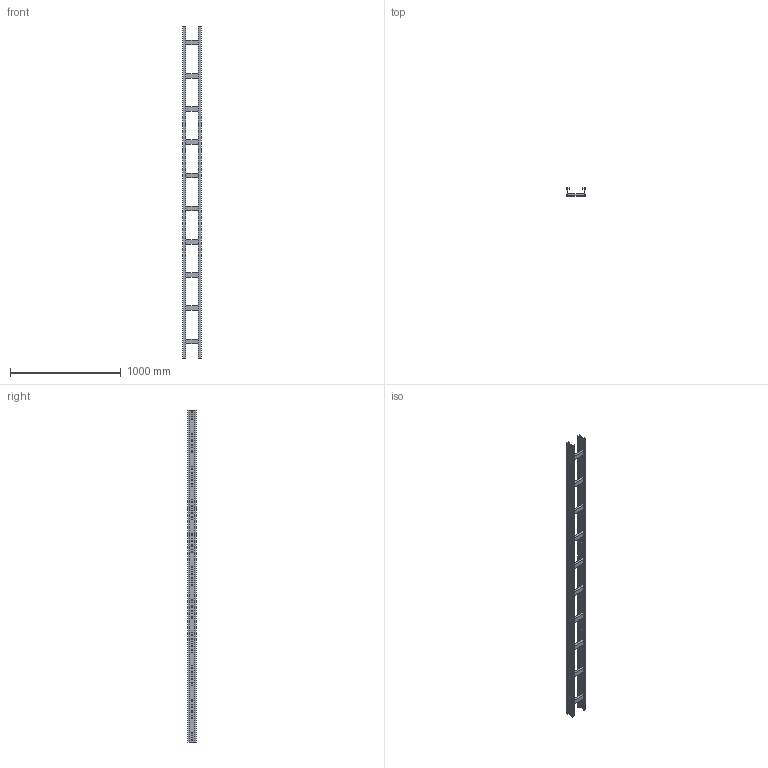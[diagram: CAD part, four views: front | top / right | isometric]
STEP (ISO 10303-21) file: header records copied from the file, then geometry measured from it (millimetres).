
FILE_DESCRIPTION (( 'STEP AP214' ), '1' );
FILE_NAME ('01S3C150.step', '2025-02-21T16:20:47', ( '' ), ( '' ), 'SwSTEP 2.0', 'SolidWorks 2023', '' );
FILE_SCHEMA (( 'AUTOMOTIVE_DESIGN' ));
Length unit declared in the file: millimetre
Products named in the file (3): LONGH.H75; 01S3C150; TRAVERSINO_150
Assembly tree (12 placements, depth 2):
  01S3C150
    LONGH.H75  x2
    TRAVERSINO_150  x10
Bounding box: 168 x 75 x 3000 mm (x, y, z)
Volume: 4120200 mm3; surface area: 1650201 mm2
Topology: 12 solids, 12 shells, 408 faces, 1152 edges, 768 vertices
Faces by surface type: plane 408
Entity records: 6180 total; most frequent: CARTESIAN_POINT 1075, ORIENTED_EDGE 1056, DIRECTION 918, EDGE_CURVE 528, LINE 528, VECTOR 528, VERTEX_POINT 352, EDGE_LOOP 260
